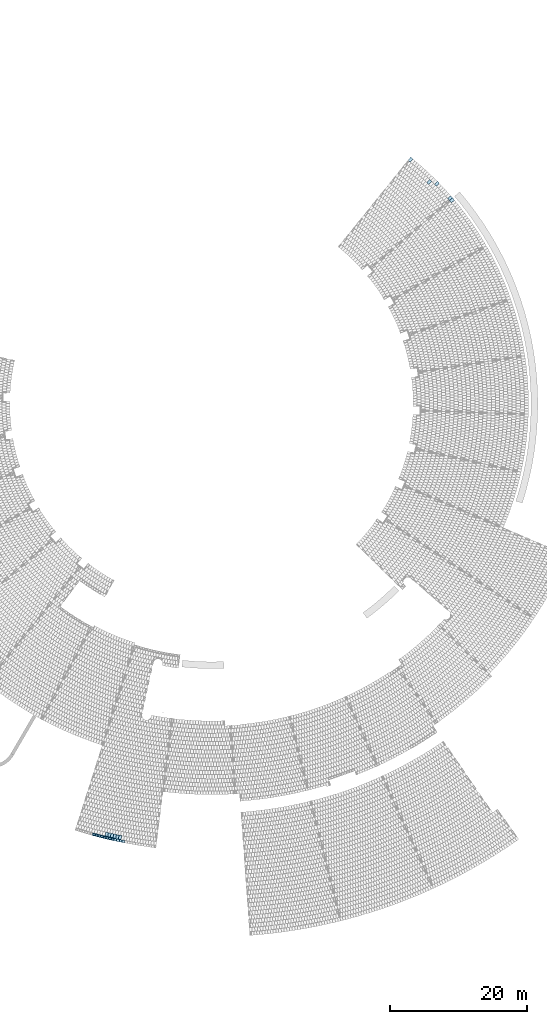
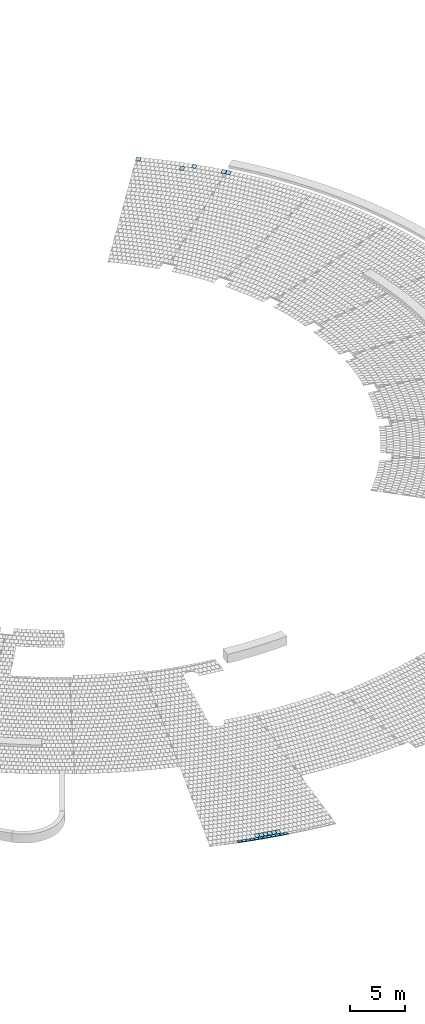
# One storey, part 15 of 438: 23 slabs.
"""IFC2X3 building model written with IfcOpenShell, lengths in millimetres."""

from ifc_helpers import new_model, entity, si_unit, converted_unit, derived_unit, direction, frame, origin, place, context, subcontext, project, spatial, polyline, outline, extrude, material, layer, layer_set, layer_usage, type_object, element, save


model = new_model("IFC2X3")

# Units and contexts
model_context = context("Model", 3, precision=0.01, world=origin(), true_north=direction((6.123031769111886e-17, 1.0)))
body_context = subcontext(model_context, "Body", "Model", "MODEL_VIEW")
ifc_project = project(units=[si_unit("LENGTHUNIT", "METRE", prefix="MILLI"), si_unit("AREAUNIT", "SQUARE_METRE"), si_unit("VOLUMEUNIT", "CUBIC_METRE"), converted_unit("PLANEANGLEUNIT", "DEGREE", entity("IfcRatioMeasure", 0.017453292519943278), si_unit("PLANEANGLEUNIT", "RADIAN"), dimensions=[0, 0, 0, 0, 0, 0, 0]), si_unit("MASSUNIT", "GRAM", prefix="KILO"), derived_unit("MASSDENSITYUNIT", [(si_unit("MASSUNIT", "GRAM", prefix="KILO"), 1), (si_unit("LENGTHUNIT", "METRE"), -3)]), derived_unit("MOMENTOFINERTIAUNIT", [(si_unit("LENGTHUNIT", "METRE"), 4)]), si_unit("TIMEUNIT", "SECOND"), si_unit("FREQUENCYUNIT", "HERTZ"), si_unit("THERMODYNAMICTEMPERATUREUNIT", "DEGREE_CELSIUS"), derived_unit("THERMALTRANSMITTANCEUNIT", [(si_unit("MASSUNIT", "GRAM", prefix="KILO"), 1), (si_unit("THERMODYNAMICTEMPERATUREUNIT", "KELVIN"), -1), (si_unit("TIMEUNIT", "SECOND"), -3)]), derived_unit("THERMALCONDUCTANCEUNIT", [(si_unit("MASSUNIT", "GRAM", prefix="KILO"), 1), (si_unit("LENGTHUNIT", "METRE"), 1), (si_unit("THERMODYNAMICTEMPERATUREUNIT", "KELVIN"), -1), (si_unit("TIMEUNIT", "SECOND"), -3)]), derived_unit("VOLUMETRICFLOWRATEUNIT", [(si_unit("LENGTHUNIT", "METRE"), 3), (si_unit("TIMEUNIT", "SECOND"), -1)]), derived_unit("MASSFLOWRATEUNIT", [(si_unit("MASSUNIT", "GRAM", prefix="KILO"), 1), (si_unit("TIMEUNIT", "SECOND"), -1)]), derived_unit("ROTATIONALFREQUENCYUNIT", [(si_unit("TIMEUNIT", "SECOND"), -1)]), si_unit("ELECTRICCURRENTUNIT", "AMPERE"), si_unit("ELECTRICVOLTAGEUNIT", "VOLT"), si_unit("POWERUNIT", "WATT"), converted_unit("FORCEUNIT", "KIP", entity("IfcRatioMeasure", 2.088543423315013e-05), si_unit("FORCEUNIT", "NEWTON"), dimensions=[1, 1, -2, 0, 0, 0, 0]), si_unit("ILLUMINANCEUNIT", "LUX"), si_unit("LUMINOUSFLUXUNIT", "LUMEN"), si_unit("LUMINOUSINTENSITYUNIT", "CANDELA"), derived_unit("USERDEFINED", [(si_unit("MASSUNIT", "GRAM", prefix="KILO"), -1), (si_unit("LENGTHUNIT", "METRE"), -2), (si_unit("TIMEUNIT", "SECOND"), 3), (si_unit("LUMINOUSFLUXUNIT", "LUMEN"), 1)]), derived_unit("USERDEFINED", [(si_unit("MASSUNIT", "GRAM", prefix="KILO"), 1), (si_unit("LENGTHUNIT", "METRE"), 3), (si_unit("TIMEUNIT", "SECOND"), -3), (si_unit("ELECTRICCURRENTUNIT", "AMPERE"), -2)]), derived_unit("USERDEFINED", [(si_unit("LENGTHUNIT", "METRE"), 2), (si_unit("TIMEUNIT", "SECOND"), -2)]), derived_unit("SOUNDPOWERUNIT", [(si_unit("MASSUNIT", "GRAM", prefix="KILO"), 1), (si_unit("LENGTHUNIT", "METRE"), 2), (si_unit("TIMEUNIT", "SECOND"), -3)]), derived_unit("SOUNDPRESSUREUNIT", [(si_unit("MASSUNIT", "GRAM", prefix="KILO"), 1), (si_unit("LENGTHUNIT", "METRE"), -1), (si_unit("TIMEUNIT", "SECOND"), -2)]), derived_unit("LINEARVELOCITYUNIT", [(si_unit("LENGTHUNIT", "METRE"), 1), (si_unit("TIMEUNIT", "SECOND"), -1)]), si_unit("PRESSUREUNIT", "PASCAL"), derived_unit("USERDEFINED", [(si_unit("LENGTHUNIT", "METRE"), -2), (si_unit("MASSUNIT", "GRAM", prefix="KILO"), 1), (si_unit("TIMEUNIT", "SECOND"), -2)]), derived_unit("LINEARFORCEUNIT", [(si_unit("MASSUNIT", "GRAM", prefix="KILO"), 1), (si_unit("LENGTHUNIT", "METRE"), 1), (si_unit("TIMEUNIT", "SECOND"), -2), (si_unit("LENGTHUNIT", "METRE"), -1)]), derived_unit("PLANARFORCEUNIT", [(si_unit("MASSUNIT", "GRAM", prefix="KILO"), 1), (si_unit("LENGTHUNIT", "METRE"), 1), (si_unit("TIMEUNIT", "SECOND"), -2), (si_unit("LENGTHUNIT", "METRE"), -2)]), derived_unit("SPECIFICHEATCAPACITYUNIT", [(si_unit("LENGTHUNIT", "METRE"), 2), (si_unit("TIMEUNIT", "SECOND"), -2), (si_unit("THERMODYNAMICTEMPERATUREUNIT", "KELVIN"), -1)]), derived_unit("VAPORPERMEABILITYUNIT", [(si_unit("TIMEUNIT", "SECOND"), 1), (si_unit("LENGTHUNIT", "METRE"), -1)]), derived_unit("DYNAMICVISCOSITYUNIT", [(si_unit("MASSUNIT", "GRAM", prefix="KILO"), 1), (si_unit("LENGTHUNIT", "METRE"), -1), (si_unit("TIMEUNIT", "SECOND"), -1)]), derived_unit("THERMALEXPANSIONCOEFFICIENTUNIT", [(si_unit("THERMODYNAMICTEMPERATUREUNIT", "KELVIN"), -1)])], contexts=[model_context])

# Site, building, storey
site_placement = place(None, frame((0.0, 0.0, 0.0), z_axis=(0.0, 0.0, 1.0), x_axis=(0.8191520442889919, 0.5735764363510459, 0.0)))
site = spatial("IfcSite", under=ifc_project, at=site_placement, Name="Default", CompositionType="ELEMENT")
building_placement = place(site_placement, origin())
building = spatial("IfcBuilding", under=site, at=building_placement, CompositionType="ELEMENT")
storey_placement = place(building_placement, origin())
storey = spatial("IfcBuildingStorey", under=building, at=storey_placement, Name="PLAN", CompositionType="ELEMENT", Elevation=0.0)

# Slabs
ifc_material = material(Name="Paint-01")
ifc_layer = layer(ifc_material, 20.00000000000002)
ifc_layer_set = layer_set([ifc_layer], Name="Floor:Slab-179:1000")
ifc_layer_usage = layer_usage(ifc_layer_set, "AXIS3", "POSITIVE", 0.0)
slab_type = type_object("IfcSlabType", Name="Floor:Slab-179:1000", PredefinedType="FLOOR", material=ifc_layer_set)
slab_1_placement = place(storey_placement, origin())
element("IfcSlab", 1, at=slab_1_placement, inside=storey, type_object=slab_type, material=ifc_layer_usage, Name="Floor:Slab-179:1000", ObjectType="Floor:Slab-179:1000", PredefinedType="FLOOR", context=body_context, shape_type="SweptSolid", body=[
    extrude(outline(polyline([(-215.73772282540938, -299.9999986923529), (215.7377260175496, -299.9999986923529), (215.73772282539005, 299.999998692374), (-215.73772601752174, 299.9999986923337), (-215.73772282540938, -299.9999986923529)])), frame((5581.04056569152, -63746.449759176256, 520.0), z_axis=(0.0, 0.0, -1.0), x_axis=(0.09080099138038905, -0.9958690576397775, 0.0)), (0.0, 0.0, 1.0), 20.000000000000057),
])
slab_2_placement = place(storey_placement, origin())
element("IfcSlab", 2, at=slab_2_placement, inside=storey, type_object=slab_type, material=ifc_layer_usage, Name="Floor:Slab-179:1000", ObjectType="Floor:Slab-179:1000", PredefinedType="FLOOR", context=body_context, shape_type="SweptSolid", body=[
    extrude(outline(polyline([(-299.9999976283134, -200.00000294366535), (300.0, -200.00000294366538), (299.9999976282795, 200.00000294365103), (-300.0, 200.00000294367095), (-299.9999976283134, -200.00000294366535)])), frame((5168.031744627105, -60504.77166657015, 520.0), z_axis=(0.0, 0.0, -1.0), x_axis=(0.9868781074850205, 0.16146702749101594, 0.0)), (0.0, 0.0, 1.0), 20.000000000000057),
])
slab_3_placement = place(storey_placement, origin())
element("IfcSlab", 3, at=slab_3_placement, inside=storey, type_object=slab_type, material=ifc_layer_usage, Name="Floor:Slab-179:1000", ObjectType="Floor:Slab-179:1000", PredefinedType="FLOOR", context=body_context, shape_type="SweptSolid", body=[
    extrude(outline(polyline([(-215.73772282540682, -299.9999986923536), (215.73772601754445, -299.9999986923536), (215.73772282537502, 299.99999869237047), (-215.73772601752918, 299.9999986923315), (-215.73772282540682, -299.9999986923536)])), frame((4027.4938685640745, -55383.299587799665, 520.0), z_axis=(0.0, 0.0, -1.0), x_axis=(0.27224539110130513, -0.9622278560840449, 0.0)), (0.0, 0.0, 1.0), 19.99999999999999),
])
slab_4_placement = place(storey_placement, origin())
element("IfcSlab", 4, at=slab_4_placement, inside=storey, type_object=slab_type, material=ifc_layer_usage, Name="Floor:Slab-179:1000", ObjectType="Floor:Slab-179:1000", PredefinedType="FLOOR", context=body_context, shape_type="SweptSolid", body=[
    extrude(outline(polyline([(-299.99999754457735, -215.73772442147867), (300.0, -215.7377244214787), (299.9999975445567, 215.73772442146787), (-300.0, 215.7377244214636), (-299.99999754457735, -215.73772442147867)])), frame((5539.400660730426, -63313.94694878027, 520.0), z_axis=(0.0, 0.0, -1.0), x_axis=(0.9949002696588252, 0.10086353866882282, 0.0)), (0.0, 0.0, 1.0), 20.000000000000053),
])
slab_5_placement = place(storey_placement, origin())
element("IfcSlab", 5, at=slab_5_placement, inside=storey, type_object=slab_type, material=ifc_layer_usage, Name="Floor:Slab-179:1000", ObjectType="Floor:Slab-179:1000", PredefinedType="FLOOR", context=body_context, shape_type="SweptSolid", body=[
    extrude(outline(polyline([(-200.00000134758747, -299.99999869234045), (200.00000453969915, -299.99999869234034), (200.00000134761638, 299.9999986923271), (-200.00000453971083, 299.99999869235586), (-200.00000134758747, -299.99999869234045)])), frame((4400.376573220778, -59626.60386145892, 520.0), z_axis=(0.0, 0.0, -1.0), x_axis=(0.1829191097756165, -0.9831279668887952, 0.0)), (0.0, 0.0, 1.0), 20.000000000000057),
])
slab_6_placement = place(storey_placement, origin())
element("IfcSlab", 6, at=slab_6_placement, inside=storey, type_object=slab_type, material=ifc_layer_usage, Name="Floor:Slab-179:1000", ObjectType="Floor:Slab-179:1000", PredefinedType="FLOOR", context=body_context, shape_type="SweptSolid", body=[
    extrude(outline(polyline([(-200.0000020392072, -169.9999986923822), (200.00000384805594, -169.99999869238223), (200.0000020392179, 169.99999869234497), (-200.00000384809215, 169.99999869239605), (-200.0000020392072, -169.9999986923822)])), frame((-88439.96601973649, -112129.35510603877, 520.0), z_axis=(0.0, 0.0, -1.0), x_axis=(0.6763377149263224, -0.7365916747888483, 0.0)), (0.0, 0.0, 1.0), 20.000000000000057),
])
slab_7_placement = place(storey_placement, origin())
element("IfcSlab", 7, at=slab_7_placement, inside=storey, type_object=slab_type, material=ifc_layer_usage, Name="Floor:Slab-179:1000", ObjectType="Floor:Slab-179:1000", PredefinedType="FLOOR", context=body_context, shape_type="SweptSolid", body=[
    extrude(outline(polyline([(-200.0000013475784, -299.999998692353), (200.00000453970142, -299.999998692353), (200.00000134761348, 299.99999869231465), (-200.0000045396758, 299.9999986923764), (-200.0000013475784, -299.999998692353)])), frame((-88225.75124803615, -111659.88186565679, 520.0), z_axis=(0.0, 0.0, -1.0), x_axis=(0.6740522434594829, -0.7386836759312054, 0.0)), (0.0, 0.0, 1.0), 20.000000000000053),
])
slab_8_placement = place(storey_placement, origin())
element("IfcSlab", 8, at=slab_8_placement, inside=storey, type_object=slab_type, material=ifc_layer_usage, Name="Floor:Slab-179:1000", ObjectType="Floor:Slab-179:1000", PredefinedType="FLOOR", context=body_context, shape_type="SweptSolid", body=[
    extrude(outline(polyline([(-200.00000134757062, -299.999998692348), (200.00000453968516, -299.999998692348), (200.00000134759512, 299.9999986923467), (-200.00000453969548, 299.99999869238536), (-200.00000134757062, -299.999998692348)])), frame((-88495.70289380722, -111362.19874791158, 520.0), z_axis=(0.0, 0.0, -1.0), x_axis=(0.6694619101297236, -0.7428463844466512, 0.0)), (0.0, 0.0, 1.0), 20.000000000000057),
])
slab_9_placement = place(storey_placement, origin())
element("IfcSlab", 9, at=slab_9_placement, inside=storey, type_object=slab_type, material=ifc_layer_usage, Name="Floor:Slab-179:1000", ObjectType="Floor:Slab-179:1000", PredefinedType="FLOOR", context=body_context, shape_type="SweptSolid", body=[
    extrude(outline(polyline([(-200.0000013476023, -299.99999869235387), (200.00000453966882, -299.9999986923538), (200.00000134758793, 299.9999986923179), (-200.00000453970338, 299.9999986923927), (-200.0000013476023, -299.99999869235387)])), frame((-88763.80470740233, -111062.84853964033, 520.0), z_axis=(0.0, 0.0, -1.0), x_axis=(0.6648458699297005, -0.7469805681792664, 0.0)), (0.0, 0.0, 1.0), 20.000000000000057),
])
slab_10_placement = place(storey_placement, origin())
element("IfcSlab", 10, at=slab_10_placement, inside=storey, type_object=slab_type, material=ifc_layer_usage, Name="Floor:Slab-179:1000", ObjectType="Floor:Slab-179:1000", PredefinedType="FLOOR", context=body_context, shape_type="SweptSolid", body=[
    extrude(outline(polyline([(-200.0000013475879, -299.99999869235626), (200.0000045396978, -299.9999986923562), (200.0000013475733, 299.9999986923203), (-200.00000453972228, 299.99999869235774), (-200.0000013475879, -299.99999869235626)])), frame((-89030.04639389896, -110761.84273568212, 520.0), z_axis=(0.0, 0.0, -1.0), x_axis=(0.6602043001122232, -0.7510860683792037, 0.0)), (0.0, 0.0, 1.0), 20.000000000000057),
])
slab_11_placement = place(storey_placement, origin())
element("IfcSlab", 11, at=slab_11_placement, inside=storey, type_object=slab_type, material=ifc_layer_usage, Name="Floor:Slab-179:1000", ObjectType="Floor:Slab-179:1000", PredefinedType="FLOOR", context=body_context, shape_type="SweptSolid", body=[
    extrude(outline(polyline([(-299.99999762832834, -200.00000294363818), (300.0, -200.0000029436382), (299.9999976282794, 200.00000294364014), (-300.0, 200.0000029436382), (-299.99999762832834, -200.00000294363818)])), frame((-87953.96017536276, -111955.88641949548, 520.0), z_axis=(0.0, 0.0, -1.0), x_axis=(-0.7344926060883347, -0.6786166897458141, 0.0)), (0.0, 0.0, 1.0), 20.000000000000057),
])
slab_12_placement = place(storey_placement, origin())
element("IfcSlab", 12, at=slab_12_placement, inside=storey, type_object=slab_type, material=ifc_layer_usage, Name="Floor:Slab-179:1000", ObjectType="Floor:Slab-179:1000", PredefinedType="FLOOR", context=body_context, shape_type="SweptSolid", body=[
    extrude(outline(polyline([(-299.9999976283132, -200.00000294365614), (300.0, -200.00000294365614), (299.9999976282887, 200.00000294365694), (-300.0, 200.00000294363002), (-299.9999976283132, -200.00000294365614)])), frame((-87680.34003400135, -112250.201128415, 520.0), z_axis=(0.0, 0.0, -1.0), x_axis=(-0.730273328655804, -0.6831550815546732, 0.0)), (0.0, 0.0, 1.0), 19.99999999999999),
])
slab_13_placement = place(storey_placement, origin())
element("IfcSlab", 13, at=slab_13_placement, inside=storey, type_object=slab_type, material=ifc_layer_usage, Name="Floor:Slab-179:1000", ObjectType="Floor:Slab-179:1000", PredefinedType="FLOOR", context=body_context, shape_type="SweptSolid", body=[
    extrude(outline(polyline([(-200.00000203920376, -169.99999869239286), (200.000003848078, -169.99999869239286), (200.00000203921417, 169.99999869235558), (-200.0000038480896, 169.99999869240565), (-200.00000203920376, -169.99999869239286)])), frame((-88710.29765366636, -111833.11986456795, 520.0), z_axis=(0.0, 0.0, -1.0), x_axis=(0.6718029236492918, -0.7407299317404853, 0.0)), (0.0, 0.0, 1.0), 19.999999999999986),
])
slab_14_placement = place(storey_placement, origin())
element("IfcSlab", 14, at=slab_14_placement, inside=storey, type_object=slab_type, material=ifc_layer_usage, Name="Floor:Slab-179:1000", ObjectType="Floor:Slab-179:1000", PredefinedType="FLOOR", context=body_context, shape_type="SweptSolid", body=[
    extrude(outline(polyline([(-200.0000020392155, -169.99999869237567), (200.00000384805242, -169.99999869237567), (200.0000020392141, 169.9999986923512), (-200.00000384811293, 169.9999986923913), (-200.0000020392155, -169.99999869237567)])), frame((-88978.80556105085, -111535.23059946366, 520.0), z_axis=(0.0, 0.0, -1.0), x_axis=(0.6672428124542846, -0.744840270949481, 0.0)), (0.0, 0.0, 1.0), 20.000000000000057),
])
slab_15_placement = place(storey_placement, origin())
element("IfcSlab", 15, at=slab_15_placement, inside=storey, type_object=slab_type, material=ifc_layer_usage, Name="Floor:Slab-179:1000", ObjectType="Floor:Slab-179:1000", PredefinedType="FLOOR", context=body_context, shape_type="SweptSolid", body=[
    extrude(outline(polyline([(-200.00000203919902, -169.9999986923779), (200.000003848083, -169.9999986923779), (200.000002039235, 169.9999986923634), (-200.00000384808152, 169.9999986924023), (-200.00000203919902, -169.9999986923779)])), frame((-89245.47962196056, -111235.69853802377, 520.0), z_axis=(0.0, 0.0, -1.0), x_axis=(0.6626575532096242, -0.7489225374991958, 0.0)), (0.0, 0.0, 1.0), 20.000000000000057),
])
slab_16_placement = place(storey_placement, origin())
element("IfcSlab", 16, at=slab_16_placement, inside=storey, type_object=slab_type, material=ifc_layer_usage, Name="Floor:Slab-179:1000", ObjectType="Floor:Slab-179:1000", PredefinedType="FLOOR", context=body_context, shape_type="SweptSolid", body=[
    extrude(outline(polyline([(-200.00000203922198, -169.99999869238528), (200.00000384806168, -169.99999869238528), (200.00000203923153, 169.99999869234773), (-200.0000038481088, 169.99999869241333), (-200.00000203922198, -169.99999869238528)])), frame((-89773.28607060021, -110631.75124448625, 520.0), z_axis=(0.0, 0.0, -1.0), x_axis=(0.653412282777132, -0.7570022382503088, 0.0)), (0.0, 0.0, 1.0), 20.000000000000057),
])
slab_17_placement = place(storey_placement, origin())
element("IfcSlab", 17, at=slab_17_placement, inside=storey, type_object=slab_type, material=ifc_layer_usage, Name="Floor:Slab-179:1000", ObjectType="Floor:Slab-179:1000", PredefinedType="FLOOR", context=body_context, shape_type="SweptSolid", body=[
    extrude(outline(polyline([(-200.0000020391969, -169.99999869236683), (200.0000038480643, -169.99999869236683), (200.00000203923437, 169.99999869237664), (-200.0000038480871, 169.99999869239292), (-200.0000020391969, -169.99999869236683)])), frame((-89510.3097855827, -110934.53496946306, 520.0), z_axis=(0.0, 0.0, -1.0), x_axis=(0.658047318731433, -0.7529765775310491, 0.0)), (0.0, 0.0, 1.0), 20.000000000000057),
])
slab_18_placement = place(storey_placement, origin())
element("IfcSlab", 18, at=slab_18_placement, inside=storey, type_object=slab_type, material=ifc_layer_usage, Name="Floor:Slab-179:1000", ObjectType="Floor:Slab-179:1000", PredefinedType="FLOOR", context=body_context, shape_type="SweptSolid", body=[
    extrude(outline(polyline([(-200.00000203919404, -169.99999869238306), (200.00000384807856, -169.99999869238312), (200.00000203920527, 169.9999986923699), (-200.000003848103, 169.99999869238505), (-200.00000203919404, -169.99999869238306)])), frame((-90034.39856556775, -110327.35877486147, 520.0), z_axis=(0.0, 0.0, -1.0), x_axis=(0.648752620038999, -0.7609993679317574, 0.0)), (0.0, 0.0, 1.0), 20.000000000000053),
])
slab_19_placement = place(storey_placement, origin())
element("IfcSlab", 19, at=slab_19_placement, inside=storey, type_object=slab_type, material=ifc_layer_usage, Name="Floor:Slab-179:1000", ObjectType="Floor:Slab-179:1000", PredefinedType="FLOOR", context=body_context, shape_type="SweptSolid", body=[
    extrude(outline(polyline([(-200.00000203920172, -169.99999869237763), (200.00000384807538, -169.99999869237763), (200.00000203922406, 169.99999869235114), (-200.00000384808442, 169.99999869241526), (-200.00000203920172, -169.99999869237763)])), frame((-90293.63742928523, -110021.36903298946, 520.0), z_axis=(0.0, 0.0, -1.0), x_axis=(0.6440685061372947, -0.7649678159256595, 0.0)), (0.0, 0.0, 1.0), 19.999999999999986),
])
slab_20_placement = place(storey_placement, origin())
element("IfcSlab", 20, at=slab_20_placement, inside=storey, type_object=slab_type, material=ifc_layer_usage, Name="Floor:Slab-179:1000", ObjectType="Floor:Slab-179:1000", PredefinedType="FLOOR", context=body_context, shape_type="SweptSolid", body=[
    extrude(outline(polyline([(-200.00000203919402, -169.9999986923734), (200.00000384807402, -169.99999869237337), (200.00000203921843, 169.99999869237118), (-200.00000384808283, 169.99999869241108), (-200.00000203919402, -169.9999986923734)])), frame((-90550.99289116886, -109713.79355147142, 520.0), z_axis=(0.0, 0.0, -1.0), x_axis=(0.6393601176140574, -0.7689074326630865, 0.0)), (0.0, 0.0, 1.0), 19.999999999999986),
])
slab_21_placement = place(storey_placement, origin())
element("IfcSlab", 21, at=slab_21_placement, inside=storey, type_object=slab_type, material=ifc_layer_usage, Name="Floor:Slab-179:1000", ObjectType="Floor:Slab-179:1000", PredefinedType="FLOOR", context=body_context, shape_type="SweptSolid", body=[
    extrude(outline(polyline([(-169.99999762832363, -200.00000294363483), (170.0, -200.00000294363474), (169.99999762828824, 200.00000294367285), (-170.0, 200.00000294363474), (-169.99999762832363, -200.00000294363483)])), frame((-88167.82089176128, -112423.92511176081, 520.0), z_axis=(0.0, 0.0, -1.0), x_axis=(-0.732425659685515, -0.6808470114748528, 0.0)), (0.0, 0.0, 1.0), 20.000000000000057),
])
slab_22_placement = place(storey_placement, origin())
element("IfcSlab", 22, at=slab_22_placement, inside=storey, type_object=slab_type, material=ifc_layer_usage, Name="Floor:Slab-179:1000", ObjectType="Floor:Slab-179:1000", PredefinedType="FLOOR", context=body_context, shape_type="SweptSolid", body=[
    extrude(outline(polyline([(-169.99999762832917, -200.00000294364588), (170.0, -200.0000029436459), (169.99999762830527, 200.00000294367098), (-170.0, 200.00000294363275), (-169.99999762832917, -200.00000294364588)])), frame((-87618.13103110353, -113008.02530666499, 520.0), z_axis=(0.0, 0.0, -1.0), x_axis=(-0.7240109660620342, -0.6897884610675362, 0.0)), (0.0, 0.0, 1.0), 20.000000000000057),
])
slab_23_placement = place(storey_placement, origin())
element("IfcSlab", 23, at=slab_23_placement, inside=storey, type_object=slab_type, material=ifc_layer_usage, Name="Floor:Slab-179:1000", ObjectType="Floor:Slab-179:1000", PredefinedType="FLOOR", context=body_context, shape_type="SweptSolid", body=[
    extrude(outline(polyline([(-169.99999762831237, -200.0000029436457), (170.0, -200.00000294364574), (169.9999976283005, 200.00000294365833), (-170.0, 200.00000294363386), (-169.99999762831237, -200.0000029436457)])), frame((-87893.87243937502, -112716.81887411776, 520.0), z_axis=(0.0, 0.0, -1.0), x_axis=(-0.7282320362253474, -0.685330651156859, 0.0)), (0.0, 0.0, 1.0), 20.000000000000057),
])

save(model, "model.ifc")
